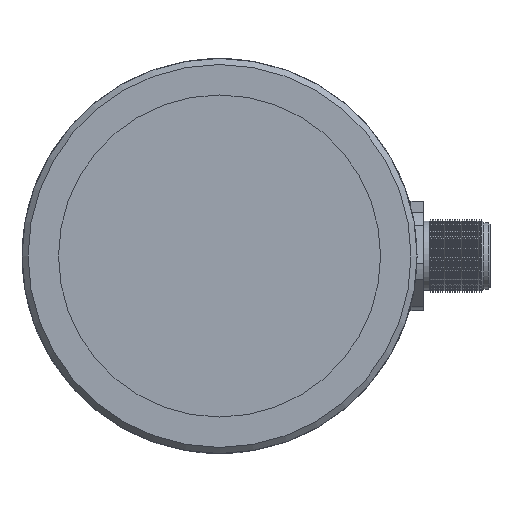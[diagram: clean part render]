
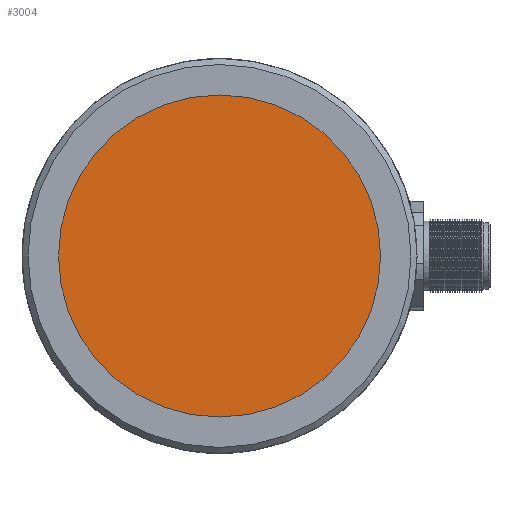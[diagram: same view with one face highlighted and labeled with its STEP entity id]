
A CAD part, left-side view. The second image highlights one B-rep face of the part: STEP entity #3004.
In plain terms, the highlighted planar face has unit normal (-1, 0, 0).
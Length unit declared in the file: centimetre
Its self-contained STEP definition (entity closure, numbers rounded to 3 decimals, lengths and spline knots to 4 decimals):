
#398=PLANE('',#3246);
#743=VERTEX_POINT('',#3605);
#1007=CIRCLE('',#3245,2.65);
#1175=EDGE_CURVE('',#743,#743,#1007,.T.);
#1565=ORIENTED_EDGE('',*,*,#1175,.T.);
#2328=EDGE_LOOP('',(#1565));
#2671=FACE_BOUND('',#2328,.T.);
#3004=ADVANCED_FACE('',(#2671),#398,.F.);
#3245=AXIS2_PLACEMENT_3D('',#3604,#4851,#4852);
#3246=AXIS2_PLACEMENT_3D('',#3606,#4853,$);
#3604=CARTESIAN_POINT('',(-3.2,0.,0.));
#3605=CARTESIAN_POINT('',(-3.2,0.,-2.65));
#3606=CARTESIAN_POINT('',(-3.2,0.,0.));
#4851=DIRECTION('',(-1.,0.,0.));
#4852=DIRECTION('',(0.,0.,-2.65));
#4853=DIRECTION('',(1.,0.,0.));
